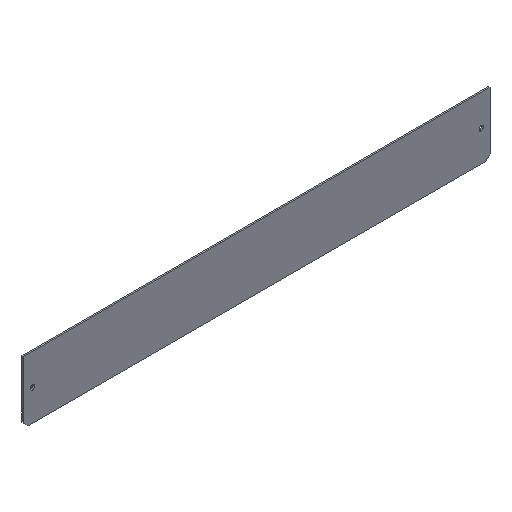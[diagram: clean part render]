
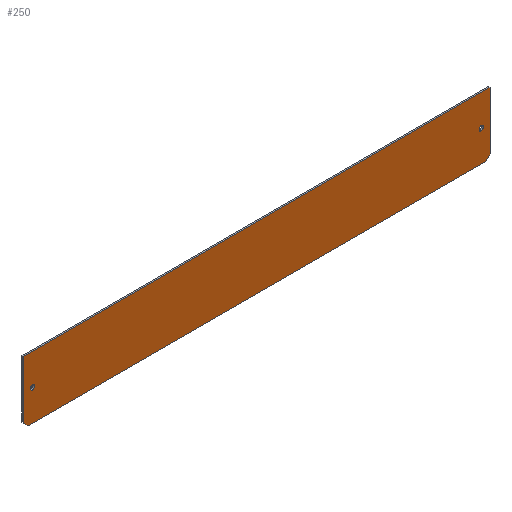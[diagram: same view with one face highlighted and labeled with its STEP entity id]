
A CAD part, isometric view. The second image highlights one B-rep face of the part: STEP entity #250.
In plain terms, the highlighted planar face has unit normal (0, -1, 0).
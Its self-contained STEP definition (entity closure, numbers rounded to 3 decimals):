
#8 = EDGE_CURVE ( 'NONE', #340, #15, #63, .T. ) ;
#10 = VERTEX_POINT ( 'NONE', #225 ) ;
#14 = VECTOR ( 'NONE', #312, 1000. ) ;
#15 = VERTEX_POINT ( 'NONE', #354 ) ;
#18 = CARTESIAN_POINT ( 'NONE',  ( 102., 0., -1. ) ) ;
#33 = CARTESIAN_POINT ( 'NONE',  ( -106., 0., 14.1 ) ) ;
#35 = LINE ( 'NONE', #127, #303 ) ;
#38 = AXIS2_PLACEMENT_3D ( 'NONE', #359, #108, #355 ) ;
#42 = VECTOR ( 'NONE', #86, 1000. ) ;
#49 = DIRECTION ( 'NONE',  ( 0., 1., 0. ) ) ;
#63 = CIRCLE ( 'NONE', #239, 1. ) ;
#66 = CARTESIAN_POINT ( 'NONE',  ( -106., 0., -14.1 ) ) ;
#70 = AXIS2_PLACEMENT_3D ( 'NONE', #296, #202, #131 ) ;
#75 = ORIENTED_EDGE ( 'NONE', *, *, #85, .F. ) ;
#77 = EDGE_CURVE ( 'NONE', #10, #171, #35, .T. ) ;
#78 = ORIENTED_EDGE ( 'NONE', *, *, #336, .F. ) ;
#85 = EDGE_CURVE ( 'NONE', #118, #177, #379, .T. ) ;
#86 = DIRECTION ( 'NONE',  ( 0., 0., -1. ) ) ;
#103 = EDGE_CURVE ( 'NONE', #10, #118, #386, .T. ) ;
#105 = FACE_BOUND ( 'NONE', #366, .T. ) ;
#106 = ORIENTED_EDGE ( 'NONE', *, *, #103, .F. ) ;
#108 = DIRECTION ( 'NONE',  ( 0., 1., 0. ) ) ;
#114 = LINE ( 'NONE', #365, #14 ) ;
#116 = CARTESIAN_POINT ( 'NONE',  ( 106., 0., -12.1 ) ) ;
#118 = VERTEX_POINT ( 'NONE', #413 ) ;
#119 = LINE ( 'NONE', #248, #42 ) ;
#124 = CARTESIAN_POINT ( 'NONE',  ( -102., 0., 0. ) ) ;
#125 = DIRECTION ( 'NONE',  ( 0., 0., 1. ) ) ;
#127 = CARTESIAN_POINT ( 'NONE',  ( -106., 0., -12.1 ) ) ;
#128 = EDGE_CURVE ( 'NONE', #15, #340, #232, .T. ) ;
#131 = DIRECTION ( 'NONE',  ( 0., 0., 1. ) ) ;
#136 = VECTOR ( 'NONE', #294, 1000. ) ;
#156 = VECTOR ( 'NONE', #293, 1000. ) ;
#171 = VERTEX_POINT ( 'NONE', #301 ) ;
#177 = VERTEX_POINT ( 'NONE', #264 ) ;
#182 = CARTESIAN_POINT ( 'NONE',  ( 102., 0., 0. ) ) ;
#183 = ORIENTED_EDGE ( 'NONE', *, *, #290, .T. ) ;
#184 = ORIENTED_EDGE ( 'NONE', *, *, #185, .T. ) ;
#185 = EDGE_CURVE ( 'NONE', #405, #409, #400, .T. ) ;
#192 = CIRCLE ( 'NONE', #211, 1. ) ;
#193 = DIRECTION ( 'NONE',  ( 0.707, 0., -0.707 ) ) ;
#202 = DIRECTION ( 'NONE',  ( 0., 1., 0. ) ) ;
#208 = LINE ( 'NONE', #283, #218 ) ;
#211 = AXIS2_PLACEMENT_3D ( 'NONE', #182, #49, #398 ) ;
#218 = VECTOR ( 'NONE', #408, 1000. ) ;
#225 = CARTESIAN_POINT ( 'NONE',  ( -106., 0., -12.1 ) ) ;
#226 = DIRECTION ( 'NONE',  ( 0., 1., 0. ) ) ;
#232 = CIRCLE ( 'NONE', #291, 1. ) ;
#239 = AXIS2_PLACEMENT_3D ( 'NONE', #124, #226, #327 ) ;
#248 = CARTESIAN_POINT ( 'NONE',  ( 106., 0., -14.1 ) ) ;
#249 = EDGE_LOOP ( 'NONE', ( #106, #284, #279, #307, #78, #75 ) ) ;
#250 = ADVANCED_FACE ( 'NONE', ( #334, #105, #330 ), #390, .F. ) ;
#257 = CARTESIAN_POINT ( 'NONE',  ( -102., 0., 0. ) ) ;
#264 = CARTESIAN_POINT ( 'NONE',  ( 106., 0., 14.1 ) ) ;
#279 = ORIENTED_EDGE ( 'NONE', *, *, #395, .F. ) ;
#283 = CARTESIAN_POINT ( 'NONE',  ( -106., 0., -14.1 ) ) ;
#284 = ORIENTED_EDGE ( 'NONE', *, *, #77, .T. ) ;
#290 = EDGE_CURVE ( 'NONE', #409, #405, #192, .T. ) ;
#291 = AXIS2_PLACEMENT_3D ( 'NONE', #257, #347, #125 ) ;
#293 = DIRECTION ( 'NONE',  ( 0., 0., 1. ) ) ;
#294 = DIRECTION ( 'NONE',  ( 1., 0., 0. ) ) ;
#296 = CARTESIAN_POINT ( 'NONE',  ( 0., 0., 0. ) ) ;
#301 = CARTESIAN_POINT ( 'NONE',  ( -104., 0., -14.1 ) ) ;
#303 = VECTOR ( 'NONE', #193, 1000. ) ;
#305 = ORIENTED_EDGE ( 'NONE', *, *, #128, .T. ) ;
#307 = ORIENTED_EDGE ( 'NONE', *, *, #404, .T. ) ;
#312 = DIRECTION ( 'NONE',  ( 0.707, 0., 0.707 ) ) ;
#327 = DIRECTION ( 'NONE',  ( 0., 0., 1. ) ) ;
#330 = FACE_OUTER_BOUND ( 'NONE', #249, .T. ) ;
#333 = VERTEX_POINT ( 'NONE', #116 ) ;
#334 = FACE_BOUND ( 'NONE', #362, .T. ) ;
#336 = EDGE_CURVE ( 'NONE', #177, #333, #119, .T. ) ;
#339 = CARTESIAN_POINT ( 'NONE',  ( -102., 0., -1. ) ) ;
#340 = VERTEX_POINT ( 'NONE', #339 ) ;
#344 = ORIENTED_EDGE ( 'NONE', *, *, #8, .T. ) ;
#347 = DIRECTION ( 'NONE',  ( 0., 1., 0. ) ) ;
#354 = CARTESIAN_POINT ( 'NONE',  ( -102., 0., 1. ) ) ;
#355 = DIRECTION ( 'NONE',  ( 0., 0., 1. ) ) ;
#359 = CARTESIAN_POINT ( 'NONE',  ( 102., 0., 0. ) ) ;
#362 = EDGE_LOOP ( 'NONE', ( #305, #344 ) ) ;
#365 = CARTESIAN_POINT ( 'NONE',  ( 104., 0., -14.1 ) ) ;
#366 = EDGE_LOOP ( 'NONE', ( #183, #184 ) ) ;
#368 = CARTESIAN_POINT ( 'NONE',  ( 102., 0., 1. ) ) ;
#379 = LINE ( 'NONE', #33, #136 ) ;
#386 = LINE ( 'NONE', #66, #156 ) ;
#390 = PLANE ( 'NONE',  #70 ) ;
#395 = EDGE_CURVE ( 'NONE', #399, #171, #208, .T. ) ;
#398 = DIRECTION ( 'NONE',  ( 0., 0., 1. ) ) ;
#399 = VERTEX_POINT ( 'NONE', #401 ) ;
#400 = CIRCLE ( 'NONE', #38, 1. ) ;
#401 = CARTESIAN_POINT ( 'NONE',  ( 104., 0., -14.1 ) ) ;
#404 = EDGE_CURVE ( 'NONE', #399, #333, #114, .T. ) ;
#405 = VERTEX_POINT ( 'NONE', #18 ) ;
#408 = DIRECTION ( 'NONE',  ( -1., 0., 0. ) ) ;
#409 = VERTEX_POINT ( 'NONE', #368 ) ;
#413 = CARTESIAN_POINT ( 'NONE',  ( -106., 0., 14.1 ) ) ;
